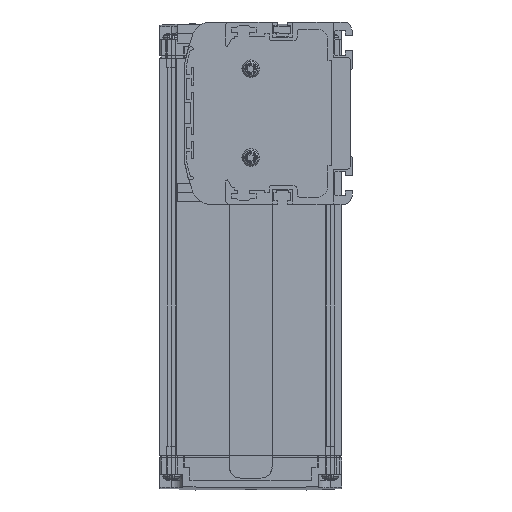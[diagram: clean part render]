
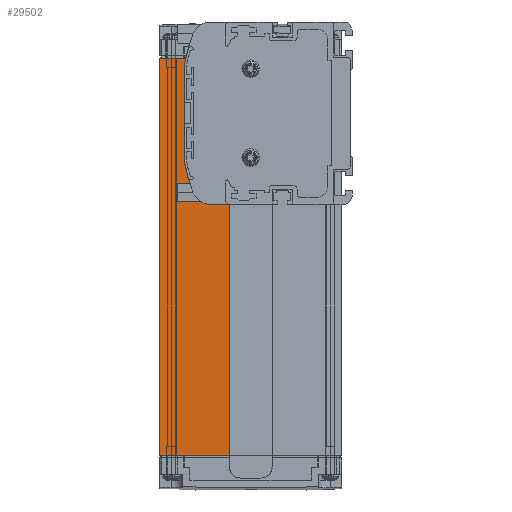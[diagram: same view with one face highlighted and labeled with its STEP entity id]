
A CAD part, left-side view. The second image highlights one B-rep face of the part: STEP entity #29502.
In plain terms, the highlighted planar face has unit normal (-1, 0, 0).
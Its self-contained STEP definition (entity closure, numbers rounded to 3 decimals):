
#4980=DIRECTION('',(0.,-1.,0.));
#4981=VECTOR('',#4980,8.155);
#4982=CARTESIAN_POINT('',(3.,60.755,-39.));
#4983=LINE('',#4982,#4981);
#5018=DIRECTION('',(0.,-1.,0.));
#5019=VECTOR('',#5018,29.9);
#5020=CARTESIAN_POINT('',(3.,82.5,-146.5));
#5021=LINE('',#5020,#5019);
#5022=DIRECTION('',(0.,1.,0.));
#5023=VECTOR('',#5022,11.203);
#5024=CARTESIAN_POINT('',(3.,71.297,23.5));
#5025=LINE('',#5024,#5023);
#5042=DIRECTION('',(0.,0.,1.));
#5043=VECTOR('',#5042,107.5);
#5044=CARTESIAN_POINT('',(3.,52.6,-146.5));
#5045=LINE('',#5044,#5043);
#5046=DIRECTION('',(0.,1.,0.));
#5047=VECTOR('',#5046,0.209);
#5048=CARTESIAN_POINT('',(3.,70.291,-27.5));
#5049=LINE('',#5048,#5047);
#5070=DIRECTION('',(0.,0.,1.));
#5071=VECTOR('',#5070,0.762);
#5072=CARTESIAN_POINT('',(3.,70.5,-27.5));
#5073=LINE('',#5072,#5071);
#10840=CARTESIAN_POINT('',(3.,-6.765,6.));
#10841=DIRECTION('',(1.,0.,0.));
#10842=DIRECTION('',(0.,0.984,0.177));
#10843=AXIS2_PLACEMENT_3D('',#10840,#10841,#10842);
#10845=CARTESIAN_POINT('',(3.,70.,19.823));
#10846=DIRECTION('',(1.,0.,0.));
#10847=DIRECTION('',(0.,1.,0.));
#10848=AXIS2_PLACEMENT_3D('',#10845,#10846,#10847);
#10854=DIRECTION('',(0.,0.,1.));
#10855=VECTOR('',#10854,39.645);
#10856=CARTESIAN_POINT('',(3.,72.,-19.823));
#10857=LINE('',#10856,#10855);
#10862=CARTESIAN_POINT('',(3.,70.,-19.823));
#10863=DIRECTION('',(-1.,0.,0.));
#10864=DIRECTION('',(0.,1.,0.));
#10865=AXIS2_PLACEMENT_3D('',#10862,#10863,#10864);
#10875=CARTESIAN_POINT('',(3.,-6.765,-6.));
#10876=DIRECTION('',(1.,0.,0.));
#10877=DIRECTION('',(0.,0.938,-0.347));
#10878=AXIS2_PLACEMENT_3D('',#10875,#10876,#10877);
#10880=CARTESIAN_POINT('',(3.,-6.765,-6.));
#10881=DIRECTION('',(1.,0.,0.));
#10882=DIRECTION('',(0.,0.966,-0.259));
#10883=AXIS2_PLACEMENT_3D('',#10880,#10881,#10882);
#10889=CARTESIAN_POINT('',(3.,60.755,-31.));
#10890=DIRECTION('',(1.,0.,0.));
#10891=DIRECTION('',(0.,0.,-1.));
#10892=AXIS2_PLACEMENT_3D('',#10889,#10890,#10891);
#14298=DIRECTION('',(0.,0.,1.));
#14299=VECTOR('',#14298,170.);
#14300=CARTESIAN_POINT('',(3.,82.5,-146.5));
#14301=LINE('',#14300,#14299);
#18312=CARTESIAN_POINT('',(3.,82.5,23.5));
#18313=VERTEX_POINT('',#18312);
#18358=CARTESIAN_POINT('',(3.,82.5,-146.5));
#18359=VERTEX_POINT('',#18358);
#18360=CARTESIAN_POINT('',(3.,52.6,-146.5));
#18361=VERTEX_POINT('',#18360);
#18390=CARTESIAN_POINT('',(3.,70.5,-27.5));
#18392=VERTEX_POINT('',#18390);
#22587=CARTESIAN_POINT('',(3.,60.755,-39.));
#22588=CARTESIAN_POINT('',(3.,52.6,-39.));
#22589=VERTEX_POINT('',#22587);
#22590=VERTEX_POINT('',#22588);
#22591=CARTESIAN_POINT('',(3.,71.297,23.5));
#22593=VERTEX_POINT('',#22591);
#22601=CARTESIAN_POINT('',(3.,70.5,-26.738));
#22602=VERTEX_POINT('',#22601);
#22605=CARTESIAN_POINT('',(3.,70.291,-27.5));
#22607=VERTEX_POINT('',#22605);
#22617=CARTESIAN_POINT('',(3.,72.,19.823));
#22618=CARTESIAN_POINT('',(3.,71.968,20.177));
#22619=VERTEX_POINT('',#22617);
#22620=VERTEX_POINT('',#22618);
#22633=CARTESIAN_POINT('',(3.,68.257,-33.778));
#22634=VERTEX_POINT('',#22633);
#22635=CARTESIAN_POINT('',(3.,71.968,-20.177));
#22636=VERTEX_POINT('',#22635);
#22637=CARTESIAN_POINT('',(3.,72.,-19.823));
#22638=VERTEX_POINT('',#22637);
#29469=CARTESIAN_POINT('',(3.,67.55,-61.5));
#29470=DIRECTION('',(1.,0.,0.));
#29471=DIRECTION('',(0.,1.,0.));
#29472=AXIS2_PLACEMENT_3D('',#29469,#29470,#29471);
#29473=PLANE('',#29472);
#29474=ORIENTED_EDGE('',*,*,#29437,.T.);
#29476=ORIENTED_EDGE('',*,*,#29475,.F.);
#29477=ORIENTED_EDGE('',*,*,#23189,.F.);
#29479=ORIENTED_EDGE('',*,*,#29478,.T.);
#29481=ORIENTED_EDGE('',*,*,#29480,.F.);
#29483=ORIENTED_EDGE('',*,*,#29482,.F.);
#29485=ORIENTED_EDGE('',*,*,#29484,.F.);
#29487=ORIENTED_EDGE('',*,*,#29486,.F.);
#29489=ORIENTED_EDGE('',*,*,#29488,.T.);
#29491=ORIENTED_EDGE('',*,*,#29490,.F.);
#29493=ORIENTED_EDGE('',*,*,#29492,.F.);
#29495=ORIENTED_EDGE('',*,*,#29494,.F.);
#29497=ORIENTED_EDGE('',*,*,#29496,.F.);
#29499=ORIENTED_EDGE('',*,*,#29498,.F.);
#29500=EDGE_LOOP('',(#29474,#29476,#29477,#29479,#29481,#29483,#29485,#29487,
#29489,#29491,#29493,#29495,#29497,#29499));
#29501=FACE_OUTER_BOUND('',#29500,.F.);
#29502=ADVANCED_FACE('',(#29501),#29473,.F.);
#10844=CIRCLE('',#10843,80.);
#10849=CIRCLE('',#10848,2.);
#10866=CIRCLE('',#10865,2.);
#10879=CIRCLE('',#10878,80.);
#10884=CIRCLE('',#10883,80.);
#10893=CIRCLE('',#10892,8.);
#23189=EDGE_CURVE('',#18359,#18361,#5021,.T.);
#29437=EDGE_CURVE('',#22589,#22590,#4983,.T.);
#29475=EDGE_CURVE('',#18361,#22590,#5045,.T.);
#29478=EDGE_CURVE('',#18359,#18313,#14301,.T.);
#29480=EDGE_CURVE('',#22593,#18313,#5025,.T.);
#29482=EDGE_CURVE('',#22620,#22593,#10844,.T.);
#29484=EDGE_CURVE('',#22619,#22620,#10849,.T.);
#29486=EDGE_CURVE('',#22638,#22619,#10857,.T.);
#29488=EDGE_CURVE('',#22638,#22636,#10866,.T.);
#29490=EDGE_CURVE('',#22602,#22636,#10884,.T.);
#29492=EDGE_CURVE('',#18392,#22602,#5073,.T.);
#29494=EDGE_CURVE('',#22607,#18392,#5049,.T.);
#29496=EDGE_CURVE('',#22634,#22607,#10879,.T.);
#29498=EDGE_CURVE('',#22589,#22634,#10893,.T.);
